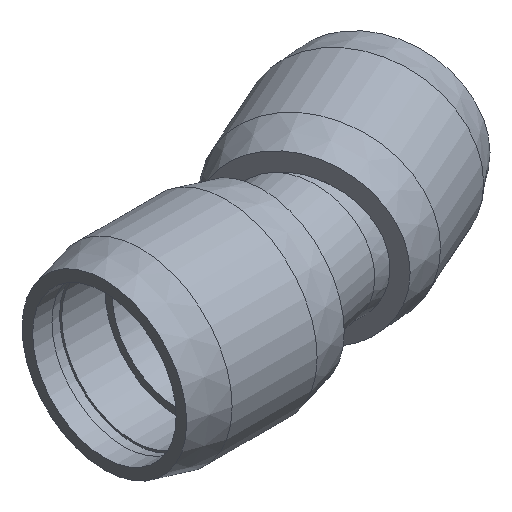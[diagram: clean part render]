
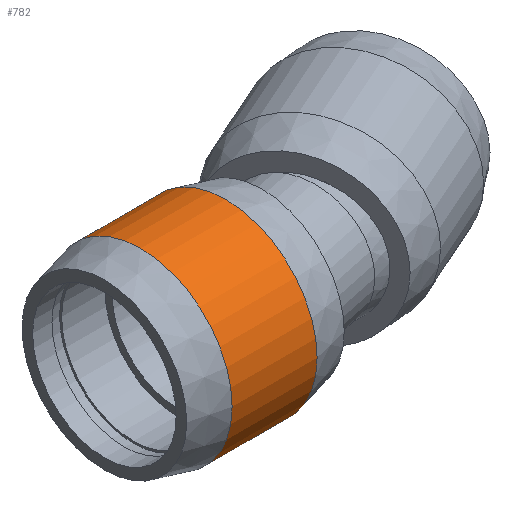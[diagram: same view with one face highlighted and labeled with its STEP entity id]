
A CAD part, isometric view. The second image highlights one B-rep face of the part: STEP entity #782.
In plain terms, the highlighted cylindrical face has radius 139.446 mm (diameter 278.892 mm), a full revolution.
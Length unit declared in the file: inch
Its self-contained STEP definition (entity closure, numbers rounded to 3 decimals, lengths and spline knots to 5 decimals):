
#54=LINE('',#1596,#82);
#82=VECTOR('',#1054,5.49);
#108=CYLINDRICAL_SURFACE('',#875,5.49);
#158=FACE_OUTER_BOUND('',#214,.T.);
#214=EDGE_LOOP('',(#608,#609,#610,#611,#612,#613));
#298=CIRCLE('',#876,5.49);
#299=CIRCLE('',#877,5.49);
#300=CIRCLE('',#878,5.49);
#301=CIRCLE('',#879,5.49);
#375=VERTEX_POINT('',#1591);
#376=VERTEX_POINT('',#1592);
#377=VERTEX_POINT('',#1595);
#378=VERTEX_POINT('',#1597);
#467=EDGE_CURVE('',#375,#376,#298,.T.);
#468=EDGE_CURVE('',#376,#375,#299,.T.);
#469=EDGE_CURVE('',#376,#377,#54,.T.);
#470=EDGE_CURVE('',#377,#378,#300,.T.);
#471=EDGE_CURVE('',#378,#377,#301,.T.);
#608=ORIENTED_EDGE('',*,*,#467,.F.);
#609=ORIENTED_EDGE('',*,*,#468,.F.);
#610=ORIENTED_EDGE('',*,*,#469,.T.);
#611=ORIENTED_EDGE('',*,*,#470,.T.);
#612=ORIENTED_EDGE('',*,*,#471,.T.);
#613=ORIENTED_EDGE('',*,*,#469,.F.);
#782=ADVANCED_FACE('',(#158),#108,.T.);
#875=AXIS2_PLACEMENT_3D('',#1590,#1048,#1049);
#876=AXIS2_PLACEMENT_3D('',#1593,#1050,#1051);
#877=AXIS2_PLACEMENT_3D('',#1594,#1052,#1053);
#878=AXIS2_PLACEMENT_3D('',#1598,#1055,#1056);
#879=AXIS2_PLACEMENT_3D('',#1599,#1057,#1058);
#1048=DIRECTION('center_axis',(1.,0.,0.));
#1049=DIRECTION('ref_axis',(0.,1.,0.));
#1050=DIRECTION('center_axis',(1.,0.,0.));
#1051=DIRECTION('ref_axis',(0.,0.,-1.));
#1052=DIRECTION('center_axis',(1.,0.,0.));
#1053=DIRECTION('ref_axis',(0.,0.,-1.));
#1054=DIRECTION('',(-1.,0.,0.));
#1055=DIRECTION('center_axis',(1.,0.,0.));
#1056=DIRECTION('ref_axis',(0.,0.,-1.));
#1057=DIRECTION('center_axis',(1.,0.,0.));
#1058=DIRECTION('ref_axis',(0.,0.,-1.));
#1590=CARTESIAN_POINT('Origin',(0.,0.,0.));
#1591=CARTESIAN_POINT('',(2.549,5.49,0.));
#1592=CARTESIAN_POINT('',(2.549,-5.49,0.));
#1593=CARTESIAN_POINT('Origin',(2.549,0.,0.));
#1594=CARTESIAN_POINT('Origin',(2.549,0.,0.));
#1595=CARTESIAN_POINT('',(-2.549,-5.49,0.));
#1596=CARTESIAN_POINT('',(0.,-5.49,0.));
#1597=CARTESIAN_POINT('',(-2.549,5.49,0.));
#1598=CARTESIAN_POINT('Origin',(-2.549,0.,0.));
#1599=CARTESIAN_POINT('Origin',(-2.549,0.,0.));
